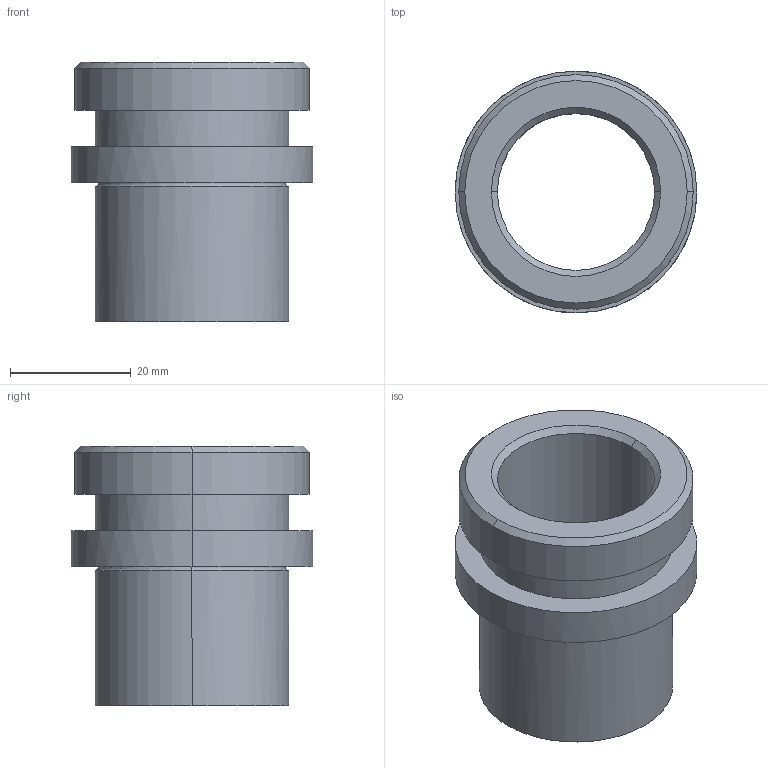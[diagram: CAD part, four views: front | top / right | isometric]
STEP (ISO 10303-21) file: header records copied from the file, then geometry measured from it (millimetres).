
FILE_DESCRIPTION(('CATIA V5 STEP Exchange'),'2;1');
FILE_NAME('C:\Users\Utente\Desktop\IO LAVORO\3D X SITO CF\X SITO\735\735-20.stp','2021-01-16T19:28:44+00:00',('none'),('none'),'CATIA Version 5 Release 20 GA (IN-10)','CATIA V5 STEP AP203','none');
FILE_SCHEMA(('CONFIG_CONTROL_DESIGN'));
Length unit declared in the file: millimetre
Products named in the file (1): 735-20
Assembly tree (1 placements, depth 2):
  735-20
    #58
Bounding box: 40 x 40 x 43 mm (x, y, z)
Volume: 17263.5 mm3; surface area: 10358.9 mm2
Topology: 1 solids, 1 shells, 25 faces, 50 edges, 30 vertices
Faces by surface type: cylinder 10, cone 6, plane 5, torus 4
Entity records: 851 total; most frequent: CARTESIAN_POINT 282, ORIENTED_EDGE 100, DIRECTION 96, AXIS2_PLACEMENT_3D 53, EDGE_CURVE 50, EDGE_LOOP 30, VERTEX_POINT 30, CIRCLE 26
